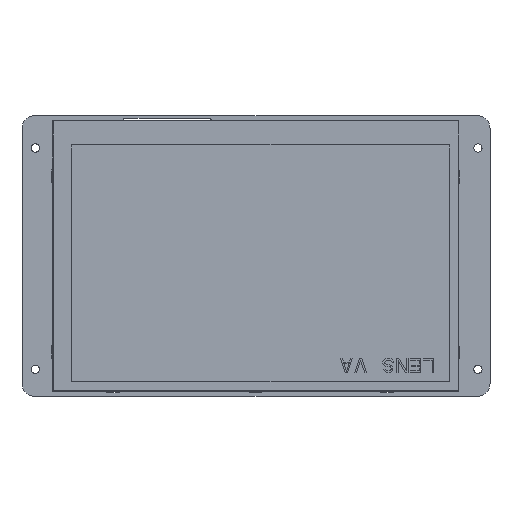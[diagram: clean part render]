
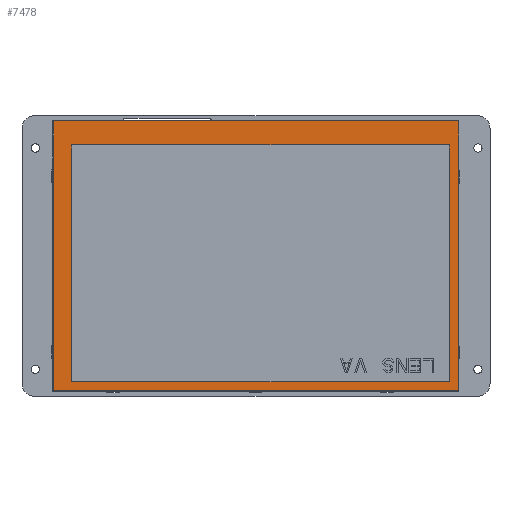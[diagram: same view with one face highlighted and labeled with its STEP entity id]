
A CAD part, front view. The second image highlights one B-rep face of the part: STEP entity #7478.
In plain terms, the highlighted planar face has unit normal (0, -1, 0) as drawn and (0, 1, 0) by its records, which use the part's own axes.
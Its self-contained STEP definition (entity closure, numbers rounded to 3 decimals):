
#5689=DIRECTION('',(0.,0.,1.));
#5690=VECTOR('',#5689,107.8);
#5691=CARTESIAN_POINT('',(-80.9,1.775,-53.9));
#5692=LINE('',#5691,#5690);
#5693=DIRECTION('',(-1.,0.,0.));
#5694=VECTOR('',#5693,161.8);
#5695=CARTESIAN_POINT('',(80.9,1.775,-53.9));
#5696=LINE('',#5695,#5694);
#5697=DIRECTION('',(0.,0.,-1.));
#5698=VECTOR('',#5697,107.8);
#5699=CARTESIAN_POINT('',(80.9,1.775,53.9));
#5700=LINE('',#5699,#5698);
#5701=DIRECTION('',(1.,0.,0.));
#5702=VECTOR('',#5701,161.8);
#5703=CARTESIAN_POINT('',(-80.9,1.775,53.9));
#5704=LINE('',#5703,#5702);
#5705=DIRECTION('',(0.,0.,1.));
#5706=VECTOR('',#5705,94.6);
#5707=CARTESIAN_POINT('',(-77.13,1.775,-50.3));
#5708=LINE('',#5707,#5706);
#5709=DIRECTION('',(1.,0.,0.));
#5710=VECTOR('',#5709,150.76);
#5711=CARTESIAN_POINT('',(-77.13,1.775,44.3));
#5712=LINE('',#5711,#5710);
#5713=DIRECTION('',(0.,0.,-1.));
#5714=VECTOR('',#5713,94.6);
#5715=CARTESIAN_POINT('',(73.63,1.775,44.3));
#5716=LINE('',#5715,#5714);
#5717=DIRECTION('',(-1.,0.,0.));
#5718=VECTOR('',#5717,150.76);
#5719=CARTESIAN_POINT('',(73.63,1.775,-50.3));
#5720=LINE('',#5719,#5718);
#6961=CARTESIAN_POINT('',(-80.9,1.775,-53.9));
#6962=CARTESIAN_POINT('',(-80.9,1.775,53.9));
#6963=VERTEX_POINT('',#6961);
#6964=VERTEX_POINT('',#6962);
#6965=CARTESIAN_POINT('',(80.9,1.775,53.9));
#6966=VERTEX_POINT('',#6965);
#6967=CARTESIAN_POINT('',(80.9,1.775,-53.9));
#6968=VERTEX_POINT('',#6967);
#7177=CARTESIAN_POINT('',(-77.13,1.775,-50.3));
#7178=CARTESIAN_POINT('',(-77.13,1.775,44.3));
#7179=VERTEX_POINT('',#7177);
#7180=VERTEX_POINT('',#7178);
#7181=CARTESIAN_POINT('',(73.63,1.775,44.3));
#7182=VERTEX_POINT('',#7181);
#7183=CARTESIAN_POINT('',(73.63,1.775,-50.3));
#7184=VERTEX_POINT('',#7183);
#7457=CARTESIAN_POINT('',(0.,1.775,0.));
#7458=DIRECTION('',(0.,1.,0.));
#7459=DIRECTION('',(1.,0.,0.));
#7460=AXIS2_PLACEMENT_3D('',#7457,#7458,#7459);
#7461=PLANE('',#7460);
#7462=ORIENTED_EDGE('',*,*,#7409,.F.);
#7463=ORIENTED_EDGE('',*,*,#7424,.F.);
#7464=ORIENTED_EDGE('',*,*,#7438,.F.);
#7465=ORIENTED_EDGE('',*,*,#7451,.F.);
#7466=EDGE_LOOP('',(#7462,#7463,#7464,#7465));
#7467=FACE_OUTER_BOUND('',#7466,.F.);
#7469=ORIENTED_EDGE('',*,*,#7468,.T.);
#7471=ORIENTED_EDGE('',*,*,#7470,.T.);
#7473=ORIENTED_EDGE('',*,*,#7472,.T.);
#7475=ORIENTED_EDGE('',*,*,#7474,.T.);
#7476=EDGE_LOOP('',(#7469,#7471,#7473,#7475));
#7477=FACE_BOUND('',#7476,.F.);
#7409=EDGE_CURVE('',#6963,#6964,#5692,.T.);
#7424=EDGE_CURVE('',#6968,#6963,#5696,.T.);
#7438=EDGE_CURVE('',#6966,#6968,#5700,.T.);
#7451=EDGE_CURVE('',#6964,#6966,#5704,.T.);
#7468=EDGE_CURVE('',#7179,#7180,#5708,.T.);
#7470=EDGE_CURVE('',#7180,#7182,#5712,.T.);
#7472=EDGE_CURVE('',#7182,#7184,#5716,.T.);
#7474=EDGE_CURVE('',#7184,#7179,#5720,.T.);
#7478=ADVANCED_FACE('',(#7467,#7477),#7461,.T.);
